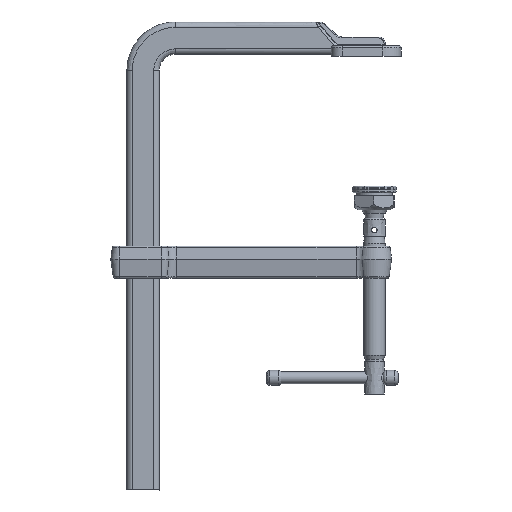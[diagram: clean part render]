
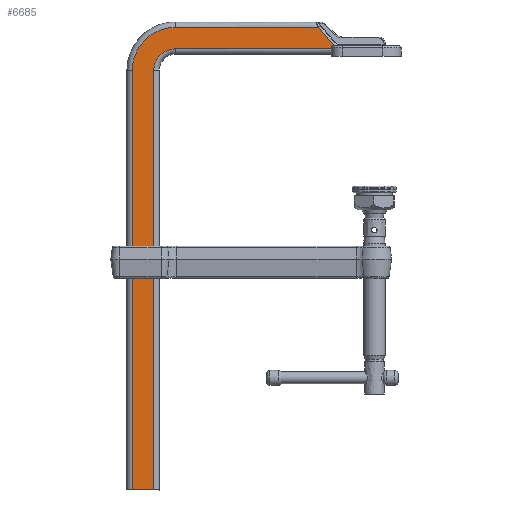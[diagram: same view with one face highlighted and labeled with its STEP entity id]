
A CAD part, front view. The second image highlights one B-rep face of the part: STEP entity #6685.
In plain terms, the highlighted free-form (B-spline) face has degree [1, 1] with [2, 2] control points.
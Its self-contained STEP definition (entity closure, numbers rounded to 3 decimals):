
#5979=CARTESIAN_POINT('',(205.,7.5,-403.));
#5980=VERTEX_POINT('',#5979);
#5987=CARTESIAN_POINT('',(225.,7.5,-403.));
#5988=VERTEX_POINT('',#5987);
#5989=CARTESIAN_POINT('',(205.,7.5,-403.));
#5990=CARTESIAN_POINT('',(225.,7.5,-403.));
#5991=B_SPLINE_CURVE_WITH_KNOTS('',1,(#5989,#5990),.POLYLINE_FORM.,.F.,.U.,(2,2),(0.202,0.798),.UNSPECIFIED.);
#5992=EDGE_CURVE('',#5980,#5988,#5991,.T.);
#6081=CARTESIAN_POINT('',(51.869,7.5,27.));
#6082=VERTEX_POINT('',#6081);
#6118=CARTESIAN_POINT('',(185.,7.5,27.));
#6119=VERTEX_POINT('',#6118);
#6126=CARTESIAN_POINT('',(51.869,7.5,27.));
#6127=CARTESIAN_POINT('',(185.,7.5,27.));
#6128=B_SPLINE_CURVE_WITH_KNOTS('',1,(#6126,#6127),.POLYLINE_FORM.,.F.,.U.,(2,2),(0.148,0.955),.UNSPECIFIED.);
#6129=EDGE_CURVE('',#6082,#6119,#6128,.T.);
#6309=CARTESIAN_POINT('',(185.,7.5,7.));
#6310=VERTEX_POINT('',#6309);
#6317=CARTESIAN_POINT('',(205.,7.5,-13.));
#6318=VERTEX_POINT('',#6317);
#6319=CARTESIAN_POINT('',(185.,7.5,7.));
#6320=CARTESIAN_POINT('',(205.,7.5,7.));
#6321=CARTESIAN_POINT('',(205.,7.5,-13.));
#6322=(BOUNDED_CURVE()B_SPLINE_CURVE(2,(#6319,#6320,#6321),.CIRCULAR_ARC.,.F.,.U.)B_SPLINE_CURVE_WITH_KNOTS((3,3),(0.,1.),.UNSPECIFIED.)CURVE()GEOMETRIC_REPRESENTATION_ITEM()RATIONAL_B_SPLINE_CURVE((1.,0.707,1.))REPRESENTATION_ITEM(''));
#6323=EDGE_CURVE('',#6310,#6318,#6322,.T.);
#6344=CARTESIAN_POINT('',(225.,7.5,-13.));
#6345=VERTEX_POINT('',#6344);
#6346=CARTESIAN_POINT('',(185.,7.5,27.));
#6347=CARTESIAN_POINT('',(225.,7.5,27.));
#6348=CARTESIAN_POINT('',(225.,7.5,-13.));
#6349=(BOUNDED_CURVE()B_SPLINE_CURVE(2,(#6346,#6347,#6348),.CIRCULAR_ARC.,.F.,.U.)B_SPLINE_CURVE_WITH_KNOTS((3,3),(0.,1.),.UNSPECIFIED.)CURVE()GEOMETRIC_REPRESENTATION_ITEM()RATIONAL_B_SPLINE_CURVE((1.,0.707,1.))REPRESENTATION_ITEM(''));
#6350=EDGE_CURVE('',#6119,#6345,#6349,.T.);
#6461=CARTESIAN_POINT('',(205.,7.5,-13.));
#6462=CARTESIAN_POINT('',(205.,7.5,-403.));
#6463=B_SPLINE_CURVE_WITH_KNOTS('',1,(#6461,#6462),.POLYLINE_FORM.,.F.,.U.,(2,2),(0.,1.),.UNSPECIFIED.);
#6464=EDGE_CURVE('',#6318,#5980,#6463,.T.);
#6477=CARTESIAN_POINT('',(225.,7.5,-13.));
#6478=CARTESIAN_POINT('',(225.,7.5,-403.));
#6479=B_SPLINE_CURVE_WITH_KNOTS('',1,(#6477,#6478),.POLYLINE_FORM.,.F.,.U.,(2,2),(0.045,0.955),.UNSPECIFIED.);
#6480=EDGE_CURVE('',#6345,#5988,#6479,.T.);
#6625=CARTESIAN_POINT('',(39.987,7.5,7.));
#6626=VERTEX_POINT('',#6625);
#6634=CARTESIAN_POINT('',(39.987,7.5,7.));
#6635=CARTESIAN_POINT('',(185.,7.5,7.));
#6636=B_SPLINE_CURVE_WITH_KNOTS('',1,(#6634,#6635),.POLYLINE_FORM.,.F.,.U.,(2,2),(0.033,1.),.UNSPECIFIED.);
#6637=EDGE_CURVE('',#6626,#6310,#6636,.T.);
#6643=CARTESIAN_POINT('',(28.525,7.5,-417.912));
#6644=CARTESIAN_POINT('',(230.826,7.5,-417.912));
#6645=CARTESIAN_POINT('',(28.525,7.5,40.062));
#6646=CARTESIAN_POINT('',(230.826,7.5,40.062));
#6647=B_SPLINE_SURFACE_WITH_KNOTS('',1,1,((#6643,#6644),(#6645,#6646)),.PLANE_SURF.,.F.,.F.,.U.,(2,2),(2,2),(0.,1.),(0.,1.),.UNSPECIFIED.);
#6648=CARTESIAN_POINT('',(37.605,7.5,10.));
#6649=VERTEX_POINT('',#6648);
#6650=CARTESIAN_POINT('',(51.869,7.5,27.));
#6651=CARTESIAN_POINT('',(37.605,7.5,10.));
#6652=B_SPLINE_CURVE_WITH_KNOTS('',1,(#6650,#6651),.POLYLINE_FORM.,.F.,.U.,(2,2),(0.,0.93),.UNSPECIFIED.);
#6653=EDGE_CURVE('',#6082,#6649,#6652,.T.);
#6654=ORIENTED_EDGE('',*,*,#6653,.F.);
#6655=ORIENTED_EDGE('',*,*,#6129,.T.);
#6656=ORIENTED_EDGE('',*,*,#6350,.T.);
#6657=ORIENTED_EDGE('',*,*,#6480,.T.);
#6658=ORIENTED_EDGE('',*,*,#5992,.F.);
#6659=ORIENTED_EDGE('',*,*,#6464,.F.);
#6660=ORIENTED_EDGE('',*,*,#6323,.F.);
#6661=ORIENTED_EDGE('',*,*,#6637,.F.);
#6662=CARTESIAN_POINT('',(39.987,7.5,8.));
#6663=VERTEX_POINT('',#6662);
#6664=CARTESIAN_POINT('',(39.987,7.5,7.));
#6665=CARTESIAN_POINT('',(39.987,7.5,8.));
#6666=B_SPLINE_CURVE_WITH_KNOTS('',1,(#6664,#6665),.POLYLINE_FORM.,.F.,.U.,(2,2),(0.7,0.8),.UNSPECIFIED.);
#6667=EDGE_CURVE('',#6626,#6663,#6666,.T.);
#6668=ORIENTED_EDGE('',*,*,#6667,.T.);
#6669=CARTESIAN_POINT('',(37.984,7.5,10.));
#6670=VERTEX_POINT('',#6669);
#6671=CARTESIAN_POINT('',(37.984,7.5,10.));
#6672=CARTESIAN_POINT('',(39.093,7.5,10.));
#6673=CARTESIAN_POINT('',(39.987,7.5,9.107));
#6674=CARTESIAN_POINT('',(39.987,7.5,8.));
#6675=B_SPLINE_CURVE_WITH_KNOTS('',3,(#6671,#6672,#6673,#6674),.UNSPECIFIED.,.F.,.U.,(4,4),(0.,1.),.UNSPECIFIED.);
#6676=EDGE_CURVE('',#6670,#6663,#6675,.T.);
#6677=ORIENTED_EDGE('',*,*,#6676,.F.);
#6678=CARTESIAN_POINT('',(37.984,7.5,10.));
#6679=CARTESIAN_POINT('',(37.605,7.5,10.));
#6680=B_SPLINE_CURVE_WITH_KNOTS('',1,(#6678,#6679),.POLYLINE_FORM.,.F.,.U.,(2,2),(0.292,0.293),.UNSPECIFIED.);
#6681=EDGE_CURVE('',#6670,#6649,#6680,.T.);
#6682=ORIENTED_EDGE('',*,*,#6681,.T.);
#6683=EDGE_LOOP('',(#6654,#6655,#6656,#6657,#6658,#6659,#6660,#6661,#6668,#6677,#6682));
#6684=FACE_OUTER_BOUND('',#6683,.T.);
#6685=ADVANCED_FACE('',(#6684),#6647,.T.);
